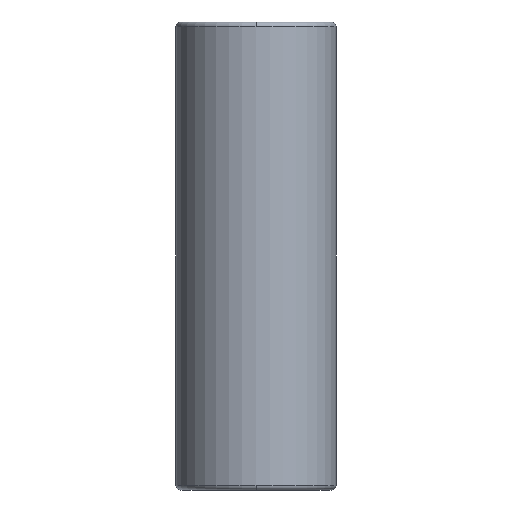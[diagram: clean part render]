
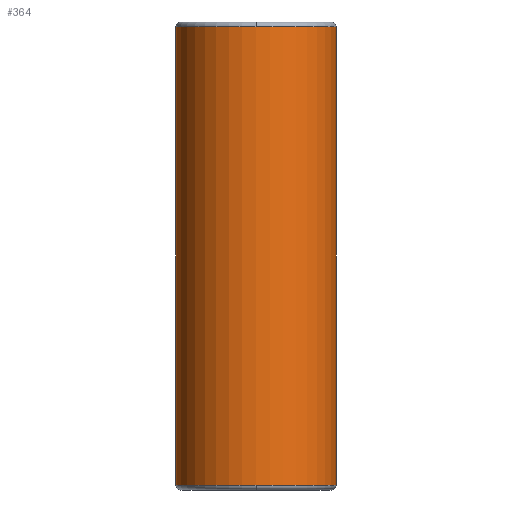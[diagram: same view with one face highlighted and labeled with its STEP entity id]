
A CAD part, front view. The second image highlights one B-rep face of the part: STEP entity #364.
In plain terms, the highlighted cylindrical face has radius 32.493 mm (diameter 64.986 mm), a partial arc.
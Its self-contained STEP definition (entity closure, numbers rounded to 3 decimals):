
#269=CARTESIAN_POINT('',(0.0,-32.493,188.0));
#270=VERTEX_POINT('',#269);
#296=CARTESIAN_POINT('',(-32.493,0.,188.0));
#297=VERTEX_POINT('',#296);
#305=CARTESIAN_POINT('',(0.0,0.,188.0));
#306=DIRECTION('',(0.0,0.0,1.0));
#307=DIRECTION('',(1.0,0.0,0.0));
#308=AXIS2_PLACEMENT_3D('',#305,#306,#307);
#309=CIRCLE('',#308,32.493);
#310=EDGE_CURVE('',#297,#270,#309,.T.);
#315=CARTESIAN_POINT('',(0.0,0.,95.0));
#316=DIRECTION('',(0.0,0.,1.0));
#317=DIRECTION('',(1.0,0.0,0.0));
#318=AXIS2_PLACEMENT_3D('',#315,#316,#317);
#319=CYLINDRICAL_SURFACE('',#318,32.493);
#320=CARTESIAN_POINT('',(32.493,0.,188.0));
#321=VERTEX_POINT('',#320);
#322=CARTESIAN_POINT('',(32.493,0.,2.));
#323=VERTEX_POINT('',#322);
#324=CARTESIAN_POINT('',(32.493,0.,188.0));
#325=DIRECTION('',(0.0,0.0,-1.0));
#326=VECTOR('',#325,186.0);
#327=LINE('',#324,#326);
#328=EDGE_CURVE('',#321,#323,#327,.T.);
#329=ORIENTED_EDGE('',*,*,#328,.F.);
#330=CARTESIAN_POINT('',(0.0,0.,188.0));
#331=DIRECTION('',(0.0,0.0,1.0));
#332=DIRECTION('',(1.0,0.0,0.0));
#333=AXIS2_PLACEMENT_3D('',#330,#331,#332);
#334=CIRCLE('',#333,32.493);
#335=EDGE_CURVE('',#270,#321,#334,.T.);
#336=ORIENTED_EDGE('',*,*,#335,.F.);
#337=ORIENTED_EDGE('',*,*,#310,.F.);
#338=CARTESIAN_POINT('',(-32.493,0.,2.));
#339=VERTEX_POINT('',#338);
#340=CARTESIAN_POINT('',(-32.493,0.,188.0));
#341=DIRECTION('',(0.0,0.0,-1.0));
#342=VECTOR('',#341,186.0);
#343=LINE('',#340,#342);
#344=EDGE_CURVE('',#297,#339,#343,.T.);
#345=ORIENTED_EDGE('',*,*,#344,.T.);
#346=CARTESIAN_POINT('',(0.0,-32.493,2.));
#347=VERTEX_POINT('',#346);
#348=CARTESIAN_POINT('',(0.0,0.,2.0));
#349=DIRECTION('',(0.0,0.0,1.0));
#350=DIRECTION('',(1.0,0.0,0.0));
#351=AXIS2_PLACEMENT_3D('',#348,#349,#350);
#352=CIRCLE('',#351,32.493);
#353=EDGE_CURVE('',#339,#347,#352,.T.);
#354=ORIENTED_EDGE('',*,*,#353,.T.);
#355=CARTESIAN_POINT('',(0.0,0.,2.0));
#356=DIRECTION('',(0.0,0.0,1.0));
#357=DIRECTION('',(1.0,0.0,0.0));
#358=AXIS2_PLACEMENT_3D('',#355,#356,#357);
#359=CIRCLE('',#358,32.493);
#360=EDGE_CURVE('',#347,#323,#359,.T.);
#361=ORIENTED_EDGE('',*,*,#360,.T.);
#362=EDGE_LOOP('',(#329,#336,#337,#345,#354,#361));
#363=FACE_OUTER_BOUND('',#362,.T.);
#364=ADVANCED_FACE('',(#363),#319,.T.);
